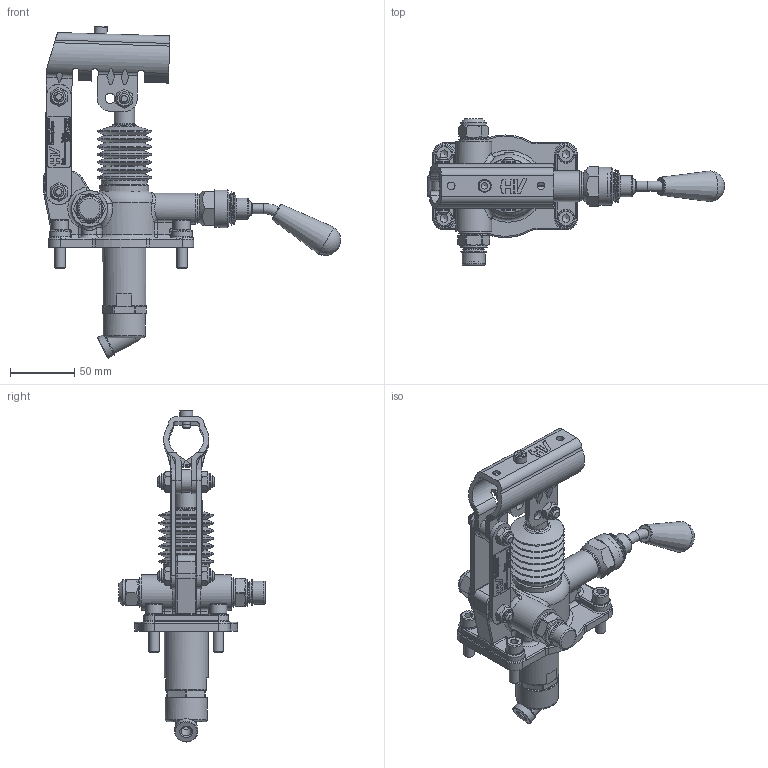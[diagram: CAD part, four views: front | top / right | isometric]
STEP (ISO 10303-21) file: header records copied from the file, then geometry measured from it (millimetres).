
FILE_DESCRIPTION((''),'2;1');
FILE_NAME('G:\HV_HYDRAULIC\AZIENDA_HV_HYDRAULIC\ARCHIVIO_DISEGNI\5_PRODOTTI_FINITI\1_POMPE_MANUALI\6049_PM_6\6049.0142_PM_6_byB-mna-s_(HV)\6049.0142.stp','2024-02-27T16:02:29',('christian.scardovi'),(''),'Autodesk Inventor 2013','Autodesk Inventor 2013','');
FILE_SCHEMA(('AUTOMOTIVE_DESIGN { 1 0 10303 214 1 1 1 1 }'));
Length unit declared in the file: millimetre
Products named in the file (1): 6049.0142
Bounding box: 231.43 x 114 x 258.54 mm (x, y, z)
Volume: 2681.3 mm3; surface area: 145706.7 mm2
Topology: 28 solids, 29 shells, 1651 faces, 4046 edges, 2542 vertices
Faces by surface type: plane 759, cylinder 341, cone 198, bspline 191, torus 145, sphere 17
Full cylindrical faces by diameter (mm): 3 x2, 5 x5, 5.5 x1, 6 x4, 6.5 x2, 8 x29, 8.5 x4, 9 x3, 9.2 x1, 10 x6, 11.05 x6, 12 x5, 13 x4, 13.2 x1, 13.468 x1, 14 x4, 14.95 x3, 15 x6, 15.5 x1, 16 x4, 16.468 x1, 16.6 x4, 17 x3, 18 x6, 18.1 x1, 19.7 x1, 20 x4, 21 x2, 22 x2, 22.4 x2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
Entity records: 49931 total; most frequent: CARTESIAN_POINT 12547, ORIENTED_EDGE 7090, DIRECTION 6933, EDGE_CURVE 3545, AXIS2_PLACEMENT_3D 2558, VERTEX_POINT 2427, EDGE_LOOP 2206, VECTOR 1817
